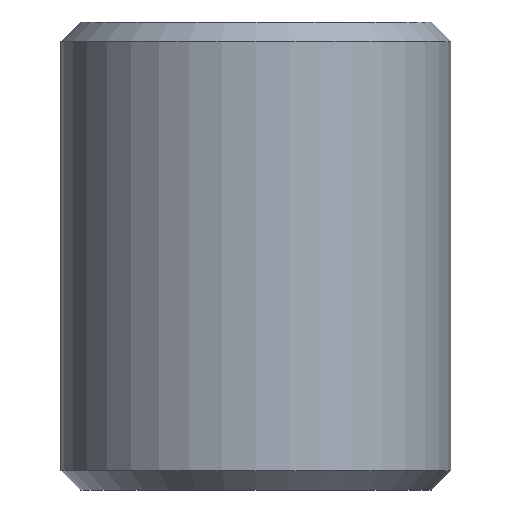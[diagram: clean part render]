
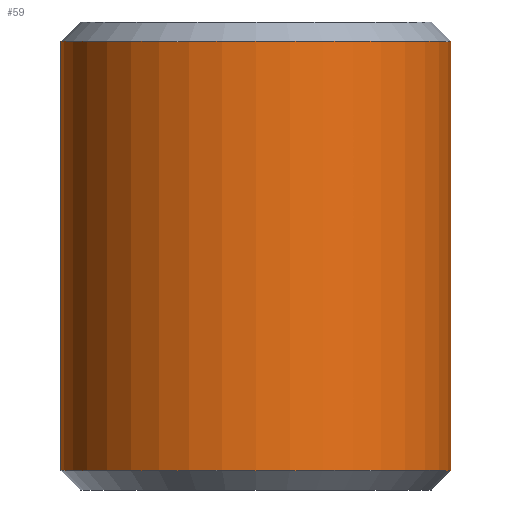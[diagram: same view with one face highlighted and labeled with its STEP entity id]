
A CAD part, front view. The second image highlights one B-rep face of the part: STEP entity #59.
In plain terms, the highlighted cylindrical face has radius 5 mm (diameter 10 mm), a partial arc.
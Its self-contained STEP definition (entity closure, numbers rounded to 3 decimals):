
#59=ADVANCED_FACE('',(#85),#86,.T.);
#85=FACE_OUTER_BOUND('',#116,.T.);
#86=CYLINDRICAL_SURFACE('',#117,5.0);
#116=EDGE_LOOP('',(#185,#186,#187,#188));
#117=AXIS2_PLACEMENT_3D('',#189,#190,#191);
#185=ORIENTED_EDGE('',*,*,#246,.T.);
#186=ORIENTED_EDGE('',*,*,#252,.T.);
#187=ORIENTED_EDGE('',*,*,#247,.T.);
#188=ORIENTED_EDGE('',*,*,#253,.T.);
#189=CARTESIAN_POINT('',(0.0,0.0,0.0));
#190=DIRECTION('',(0.0,0.0,-1.0));
#191=DIRECTION('',(1.0,0.0,0.0));
#246=EDGE_CURVE('',#281,#269,#290,.T.);
#247=EDGE_CURVE('',#265,#285,#291,.T.);
#252=EDGE_CURVE('',#269,#265,#296,.T.);
#253=EDGE_CURVE('',#285,#281,#297,.T.);
#265=VERTEX_POINT('',#311);
#269=VERTEX_POINT('',#316);
#281=VERTEX_POINT('',#331);
#285=VERTEX_POINT('',#336);
#290=LINE('',#344,#345);
#291=LINE('',#346,#347);
#296=CIRCLE('',#352,5.0);
#297=CIRCLE('',#353,5.0);
#311=CARTESIAN_POINT('',(-5.0,0.,11.5));
#316=CARTESIAN_POINT('',(5.0,0.0,11.5));
#331=CARTESIAN_POINT('',(5.0,0.,0.5));
#336=CARTESIAN_POINT('',(-5.0,0.0,0.5));
#344=CARTESIAN_POINT('',(5.0,0.,6.0));
#345=VECTOR('',#390,1.0);
#346=CARTESIAN_POINT('',(-5.0,0.,6.0));
#347=VECTOR('',#391,1.0);
#352=AXIS2_PLACEMENT_3D('',#404,#405,#406);
#353=AXIS2_PLACEMENT_3D('',#407,#408,#409);
#390=DIRECTION('',(-0.0,-0.0,1.0));
#391=DIRECTION('',(0.0,0.0,-1.0));
#404=CARTESIAN_POINT('',(0.0,0.0,11.5));
#405=DIRECTION('',(0.0,0.0,-1.0));
#406=DIRECTION('',(1.0,0.0,0.0));
#407=CARTESIAN_POINT('',(0.0,0.0,0.5));
#408=DIRECTION('',(0.0,0.0,1.0));
#409=DIRECTION('',(-1.0,0.0,0.0));
